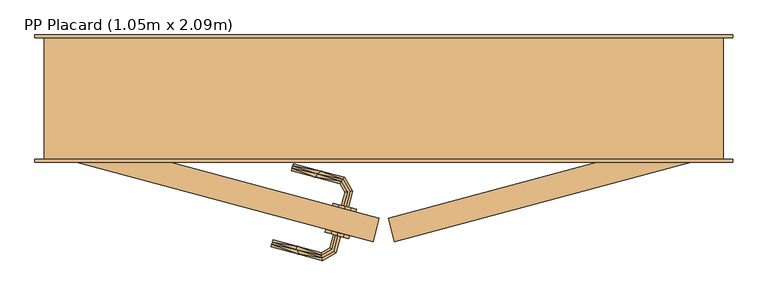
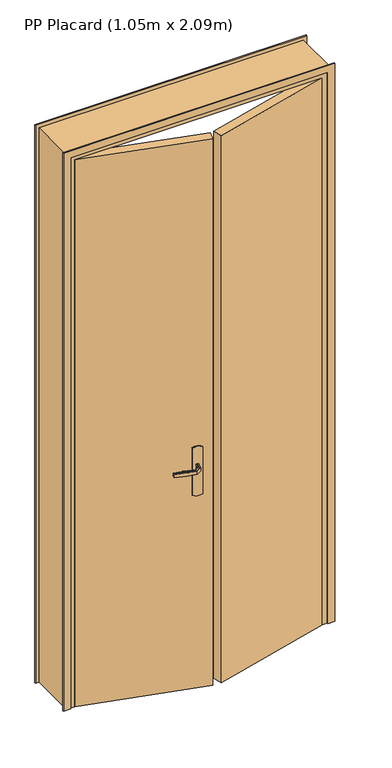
"""IFC4 building model written with IfcOpenShell, lengths in millimetres: door geometry, PP Placard (1.05m x 2.09m)."""

from ifc_helpers import new_model, si_unit, frame, origin, origin_with_axes, place, context, project, spatial, polyline, outline, extrude, faceted_brep, source, transform, mapped, element, save


def pp_placard_1_05m_x_2_09m_d5c9c8c6(model_context):
    return source(origin(), model_context, "Body", "SolidModel", [
        extrude(outline(polyline([(622.4638206, -97.2429656), (612.1110588, -135.8799987), (105.0, 0.0), (115.3527618, 38.6370331), (622.4638206, -97.2429656)])), origin_with_axes(), (0.0, 0.0, 1.0), 2450.0),
        faceted_brep([(1190.0, 0.0, 0.0), (1155.0, 0.0, 0.0), (1155.0, 40.0, 0.0), (1140.0, 40.0, 0.0), (1140.0, 200.0, 0.0), (1190.0, 200.0, 0.0), (1190.0, 200.0, 2485.0), (1190.0, 0.0, 2485.0), (1140.0, 200.0, 2435.0), (120.0, 200.0, 2435.0), (120.0, 200.0, 0.0), (70.0, 200.0, 0.0), (70.0, 200.0, 2485.0), (1140.0, 40.0, 2435.0), (1155.0, 40.0, 2450.0), (105.0, 40.0, 2450.0), (105.0, 40.0, 0.0), (120.0, 40.0, 0.0), (120.0, 40.0, 2435.0), (1155.0, 0.0, 2450.0), (70.0, 0.0, 2485.0), (70.0, 0.0, 0.0), (105.0, 0.0, 0.0), (105.0, 0.0, 2450.0)], [[[0, 1, 2, 3, 4, 5]], [[5, 6, 7, 0]], [[4, 8, 9, 10, 11, 12, 6, 5]], [[3, 13, 8, 4]], [[2, 14, 15, 16, 17, 18, 13, 3]], [[1, 19, 14, 2]], [[0, 7, 20, 21, 22, 23, 19, 1]], [[12, 11, 21, 20]], [[21, 11, 10, 17, 16, 22]], [[18, 17, 10, 9]], [[23, 22, 16, 15]], [[6, 12, 20, 7]], [[13, 18, 9, 8]], [[19, 23, 15, 14]]]),
        extrude(outline(polyline([(0.0, 0.0), (206.2910989, 39.2935427), (212.0216555, 30.5643917), (215.2976776, 20.6495021), (215.8959097, 10.2245573), (213.7755833, 0.0), (7.4844843, -39.2935426), (1.7539277, -30.5643916), (-1.5220943, -20.6495021), (-2.1203264, -10.2245573), (0.0, 0.0)])), frame((572.1799305, -130.356866, 870.0), z_axis=(0.2588190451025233, 0.9659258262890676, 0.0), x_axis=(-0.18073641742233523, 0.0484281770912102, 0.9823385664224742)), (0.0, 0.0, 1.0), 5.0),
        faceted_brep([(550.9051257, -124.6562992, 1007.7804408), (554.8177023, -125.704671, 1007.7804408), (558.656969, -126.7333994, 1007.0), (558.656969, -126.7333994, 993.0), (554.8177023, -125.704671, 992.2195592), (550.9051257, -124.6562992, 992.2195592), (547.065859, -123.6275708, 993.0), (547.065859, -123.6275708, 1007.0), (548.0872229, -150.823162, 1007.7804408), (551.5003763, -153.4421668, 1007.0), (544.6088961, -148.154148, 1007.7804408), (527.8591642, -157.8246103, 1007.7804408), (528.4314347, -162.1714366, 1007.7804408), (541.1957427, -145.5351433, 1007.0), (541.1957427, -145.5351433, 993.0), (544.6088961, -148.154148, 992.2195592), (548.0872229, -150.823162, 992.2195592), (528.4314347, -162.1714366, 992.2195592), (527.8591642, -157.8246103, 992.2195592), (551.5003763, -153.4421668, 993.0), (528.9929826, -166.4368166, 1007.0), (527.2976162, -153.5592304, 1007.0), (527.2976162, -153.5592304, 993.0), (528.9929826, -166.4368166, 993.0), (444.3378613, -143.7535452, 1007.0), (445.3665897, -139.9142785, 1007.7804408), (446.4149615, -136.001702, 1007.7804408), (447.4436899, -132.1624353, 1007.0), (447.4436899, -132.1624353, 993.0), (446.4149615, -136.001702, 992.2195592), (445.3665897, -139.9142785, 992.2195592), (444.3378613, -143.7535452, 993.0), (486.6128769, -148.8694444, 1007.8786868), (490.4230937, -156.102046, 1007.0), (487.3706531, -142.8608328, 1007.0), (487.3706531, -142.8608328, 993.0), (486.6128771, -148.8694445, 992.1213132), (490.4231011, -156.102048, 993.0)], [[[0, 1, 2, 3, 4, 5, 6, 7]], [[2, 1, 8, 9]], [[1, 0, 10, 11, 12, 8]], [[0, 7, 13, 10]], [[14, 13, 7, 6]], [[5, 15, 14, 6]], [[5, 4, 16, 17, 18, 15]], [[3, 19, 16, 4]], [[9, 19, 3, 2]], [[9, 8, 12, 20]], [[10, 13, 21, 11]], [[22, 21, 13, 14]], [[14, 15, 18, 22]], [[16, 19, 23, 17]], [[20, 23, 19, 9]], [[24, 25, 26, 27, 28, 29, 30, 31]], [[32, 25, 33]], [[33, 25, 24]], [[33, 20, 12]], [[11, 34, 32]], [[34, 11, 21]], [[27, 26, 34]], [[32, 26, 25]], [[32, 34, 26]], [[32, 33, 12]], [[11, 32, 12]], [[21, 22, 35, 28, 27, 34]], [[36, 29, 35]], [[30, 36, 37]], [[18, 35, 22]], [[29, 28, 35]], [[30, 37, 31]], [[37, 17, 23]], [[36, 17, 37]], [[36, 18, 17]], [[36, 35, 18]], [[29, 36, 30]], [[23, 20, 33, 24, 31, 37]]]),
        extrude(outline(polyline([(0.0, 0.0), (206.2910989, 39.2935427), (212.0216556, 30.5643916), (215.2976776, 20.649502), (215.8959097, 10.2245572), (213.7755833, 0.0), (7.4844843, -39.2935427), (1.7539277, -30.5643917), (-1.5220943, -20.6495022), (-2.1203264, -10.2245574), (0.0, 0.0)])), frame((583.8267876, -86.8902038, 870.0), z_axis=(0.25881904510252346, 0.9659258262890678, 0.0), x_axis=(-0.18073641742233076, 0.04842817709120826, 0.9823385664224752)), (0.0, 0.0, 1.0), 5.0),
        extrude(outline(polyline([(0.0, 1205.0), (2500.0, 1205.0), (2500.0, 55.0), (0.0, 55.0), (0.0, 85.0), (2470.0, 85.0), (2470.0, 1175.0), (0.0, 1175.0), (0.0, 1205.0)])), frame((0.0, 200.0, 0.0), z_axis=(0.0, 1.0, 0.0), x_axis=(0.0, 0.0, 1.0)), (0.0, 0.0, 1.0), 5.0),
        extrude(outline(polyline([(0.0, 1205.0), (2500.0, 1205.0), (2500.0, 55.0), (0.0, 55.0), (0.0, 85.0), (2470.0, 85.0), (2470.0, 1175.0), (0.0, 1175.0), (0.0, 1205.0)])), frame((0.0, -5.0, 0.0), z_axis=(0.0, 1.0, 0.0), x_axis=(0.0, 0.0, 1.0)), (0.0, 0.0, 1.0), 5.0),
        extrude(outline(polyline([(637.5361794, -97.2429656), (1144.6472382, 38.6370331), (1155.0, 0.0), (647.8889412, -135.8799987), (637.5361794, -97.2429656)])), origin_with_axes(), (0.0, 0.0, 1.0), 2450.0),
        faceted_brep([(563.846078, -76.3600079, 992.2195592), (567.7586545, -77.4083797, 992.2195592), (571.5979212, -78.4371081, 993.0), (571.5979212, -78.4371081, 1007.0), (567.7586545, -77.4083797, 1007.7804408), (563.846078, -76.3600079, 1007.7804408), (560.0068113, -75.3312795, 1007.0), (560.0068113, -75.3312795, 993.0), (565.8264105, -53.6122398, 1007.0), (565.8264105, -53.6122398, 993.0), (570.0917904, -53.0506919, 1007.7804408), (574.4386167, -52.4784213, 1007.7804408), (562.9931089, -32.6542201, 1007.7804408), (560.3240948, -36.1325469, 1007.7804408), (578.7039967, -51.9168734, 1007.0), (578.7039967, -51.9168734, 993.0), (574.4386167, -52.4784213, 992.2195592), (570.0917904, -53.0506919, 992.2195592), (560.3240948, -36.1325469, 992.2195592), (562.9931089, -32.6542201, 992.2195592), (557.7050901, -39.5457003, 1007.0), (557.7050901, -39.5457003, 993.0), (565.6121136, -29.2410667, 1007.0), (565.6121136, -29.2410667, 993.0), (478.9864971, -14.3382033, 1007.7804408), (480.0348689, -10.4256267, 1007.7804408), (481.0635973, -6.58636, 1007.0), (481.0635973, -6.58636, 993.0), (480.0348689, -10.4256267, 992.2195592), (478.9864971, -14.3382033, 992.2195592), (477.9577687, -18.17747, 993.0), (477.9577687, -18.17747, 1007.0), (517.8314294, -28.8615851, 1007.0), (517.8314409, -28.8615882, 993.0), (520.1794819, -23.2790868, 1007.8786868), (527.0422248, -18.9062961, 1007.0), (527.0422262, -18.9062965, 993.0), (520.1794816, -23.2790868, 992.1213132)], [[[0, 1, 2, 3, 4, 5, 6, 7]], [[8, 9, 7, 6]], [[5, 10, 8, 6]], [[5, 4, 11, 12, 13, 10]], [[3, 14, 11, 4]], [[14, 3, 2, 15]], [[2, 1, 16, 15]], [[1, 0, 17, 18, 19, 16]], [[0, 7, 9, 17]], [[20, 21, 9, 8]], [[8, 10, 13, 20]], [[14, 22, 12, 11]], [[23, 22, 14, 15]], [[15, 16, 19, 23]], [[17, 9, 21, 18]], [[24, 25, 26, 27, 28, 29, 30, 31]], [[21, 20, 32, 31, 30, 33]], [[34, 24, 32]], [[25, 34, 35]], [[13, 32, 20]], [[24, 31, 32]], [[25, 35, 26]], [[35, 12, 22]], [[34, 12, 35]], [[34, 13, 12]], [[34, 32, 13]], [[24, 34, 25]], [[22, 23, 36, 27, 26, 35]], [[37, 28, 36]], [[36, 28, 27]], [[36, 23, 19]], [[18, 33, 37]], [[33, 18, 21]], [[30, 29, 33]], [[37, 29, 28]], [[37, 33, 29]], [[37, 36, 19]], [[18, 37, 19]]]),
    ])


if __name__ == "__main__":
    model = new_model("IFC4")
    model_context = context("Model", 3, world=origin())
    ifc_project = project(units=[si_unit("LENGTHUNIT", "METRE", prefix="MILLI")], contexts=[model_context])
    site = spatial("IfcSite", under=ifc_project)
    building = spatial("IfcBuilding", under=site)
    placement = place(None, origin())
    pp_placard_1_05m_x_2_09m_shape = pp_placard_1_05m_x_2_09m_d5c9c8c6(model_context)
    element("IfcDoor", 1, ObjectType="PP Placard (1.05m x 2.09m)", at=placement, inside=building, context=model_context, shape_type="MappedRepresentation", body=[
        mapped(pp_placard_1_05m_x_2_09m_shape, transform((0.0, 0.0, 0.0), x_axis=(1.0, 0.0, 0.0), y_axis=(0.0, 1.0, 0.0), z_axis=(0.0, 0.0, 1.0))),
    ])
    save(model, "model.ifc")
